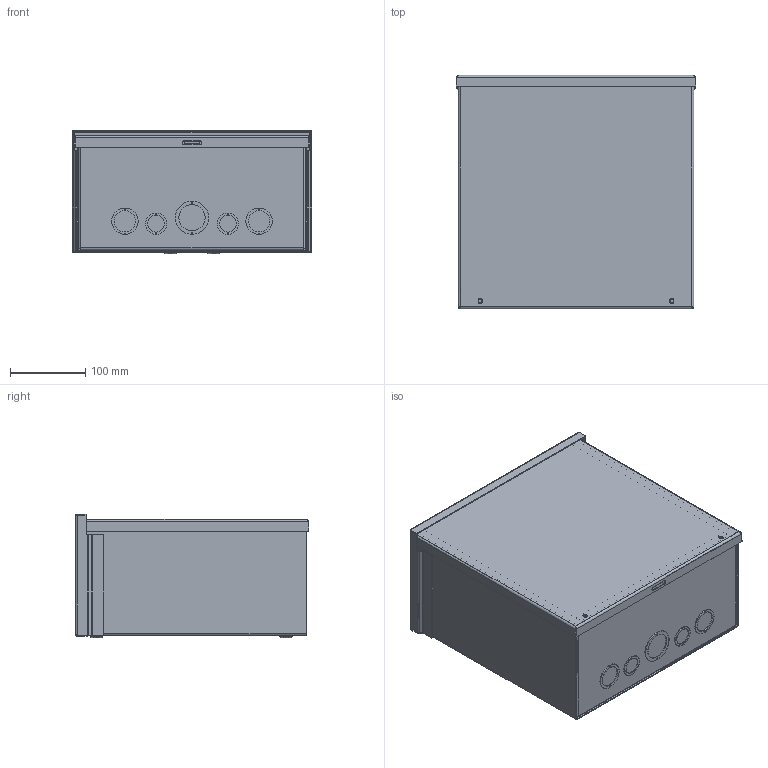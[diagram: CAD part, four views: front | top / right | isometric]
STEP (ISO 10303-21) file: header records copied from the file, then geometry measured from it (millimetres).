
FILE_DESCRIPTION (( 'STEP AP214' ), '1' );
FILE_NAME ('a12r126.STEP', '2019-03-13T19:33:30', ( '' ), ( '' ), 'SwSTEP 2.0', 'SolidWorks 2016', '' );
FILE_SCHEMA (( 'AUTOMOTIVE_DESIGN' ));
Length unit declared in the file: inch
Products named in the file (6): 43398009_COVER ,12 X 12; A60 GALV; 44301008_TOP, 12 X 6; A60 GALV; 89062516_WELDMENT,BODY,12X12X6;A60 GALV; 89062049_BODY,12 X 12 X 6 ;A60 GALV; a12r126; 87575344_BOTTOM, 12 X 6 ; A60 GALV 
Assembly tree (5 placements, depth 3):
  a12r126
    89062516_WELDMENT,BODY,12X12X6;A60 GALV
      89062049_BODY,12 X 12 X 6 ;A60 GALV
      44301008_TOP, 12 X 6; A60 GALV
      87575344_BOTTOM, 12 X 6 ; A60 GALV 
    43398009_COVER ,12 X 12; A60 GALV
Bounding box: 317.2 x 309.5 x 163.7 mm (x, y, z)
Volume: 593981.2 mm3; surface area: 859890.4 mm2
Topology: 4 solids, 4 shells, 372 faces, 826 edges, 490 vertices
Faces by surface type: plane 206, cylinder 102, torus 32, cone 16, bspline 16
Entity records: 11100 total; most frequent: CARTESIAN_POINT 2561, DIRECTION 1776, ORIENTED_EDGE 1652, EDGE_CURVE 826, AXIS2_PLACEMENT_3D 635, VECTOR 506, LINE 506, VERTEX_POINT 490
